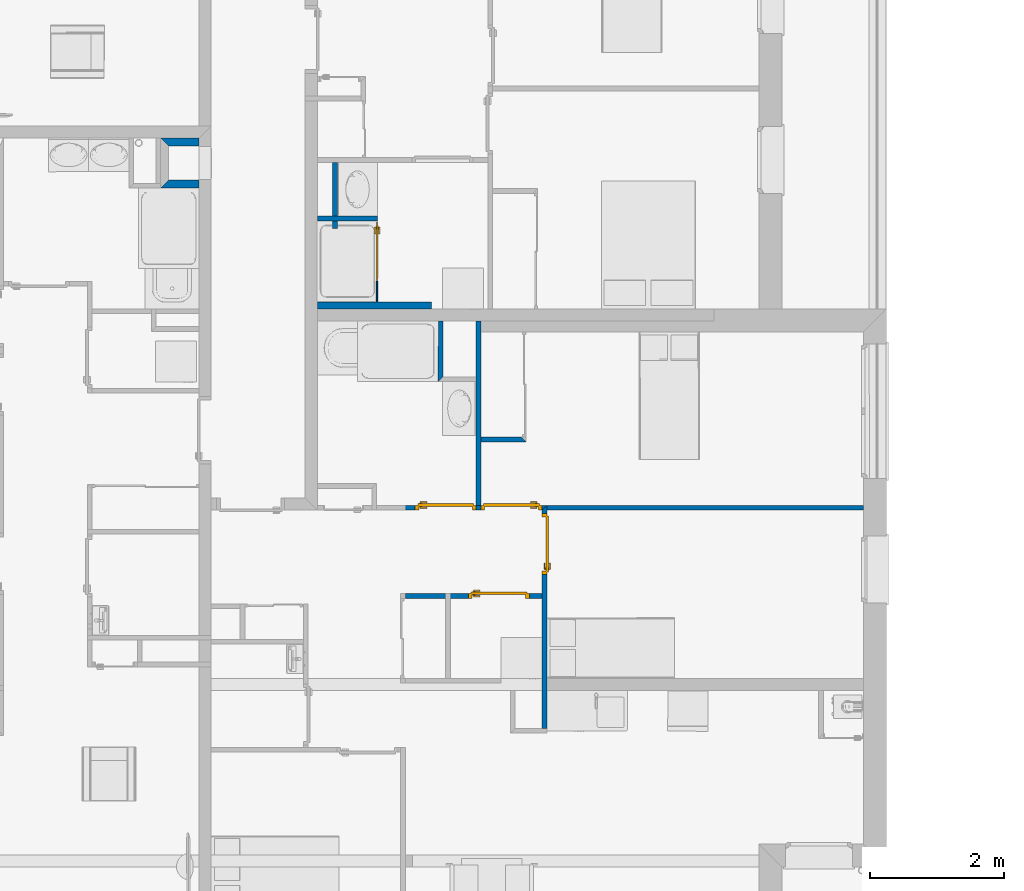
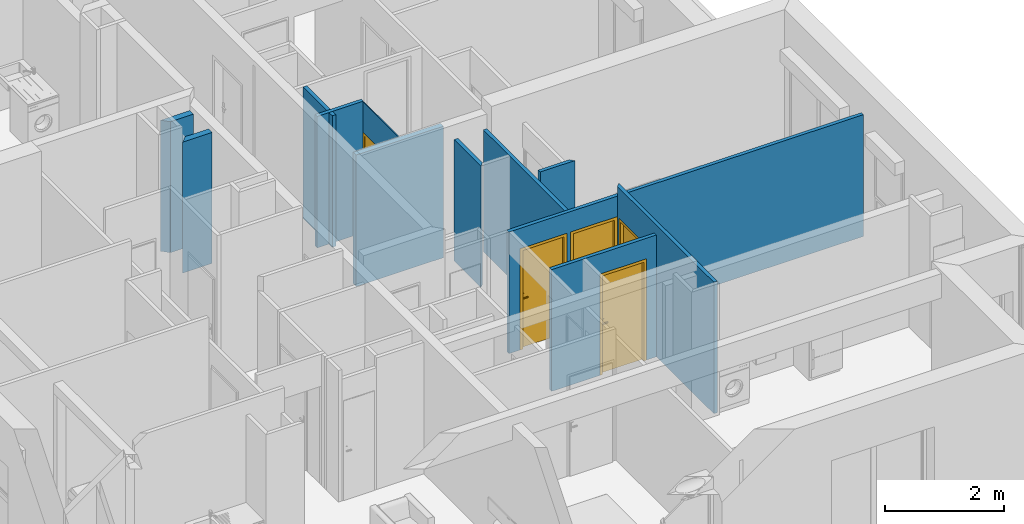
# One storey, part 14 of 165: 13 walls, 5 doors, 5 openings.
"""IFC2X3 building model written with IfcOpenShell, lengths in millimetres."""

from ifc_helpers import new_model, entity, si_unit, converted_unit, derived_unit, money_unit, direction, frame, origin_with_axes, origin_2d_with_axis, place, context, subcontext, project, spatial, polyline, rectangle, outline, extrude, faceted_brep, source, transform, mapped, material, layer, layer_set, layer_usage, type_object, element, fill, save


model = new_model("IFC2X3")

# Units and contexts
model_context = context("Model", 3, precision=0.01, world=origin_with_axes(), true_north=direction((0.0, 1.0)))
body_context = subcontext(model_context, "Body", "Model", "MODEL_VIEW")
ifc_project = project(units=[si_unit("LENGTHUNIT", "METRE", prefix="MILLI"), si_unit("AREAUNIT", "SQUARE_METRE"), si_unit("VOLUMEUNIT", "CUBIC_METRE"), converted_unit("PLANEANGLEUNIT", "DEGREE", entity("IfcPlaneAngleMeasure", 0.0174532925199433), si_unit("PLANEANGLEUNIT", "RADIAN"), dimensions=[0, 0, 0, 0, 0, 0, 0]), money_unit("USD"), converted_unit("TIMEUNIT", "Year", entity("IfcTimeMeasure", 31557600.0), si_unit("TIMEUNIT", "SECOND"), dimensions=[0, 0, 1, 0, 0, 0, 0]), si_unit("MASSUNIT", "GRAM", prefix="KILO"), si_unit("THERMODYNAMICTEMPERATUREUNIT", "DEGREE_CELSIUS"), si_unit("LUMINOUSINTENSITYUNIT", "LUMEN"), si_unit("ENERGYUNIT", "JOULE", prefix="MEGA"), derived_unit("THERMALCONDUCTANCEUNIT", [(si_unit("POWERUNIT", "WATT"), 1), (si_unit("LENGTHUNIT", "METRE"), -1), (si_unit("THERMODYNAMICTEMPERATUREUNIT", "KELVIN"), -1)]), derived_unit("SPECIFICHEATCAPACITYUNIT", [(si_unit("ENERGYUNIT", "JOULE"), 1), (si_unit("MASSUNIT", "GRAM", prefix="KILO"), -1), (si_unit("THERMODYNAMICTEMPERATUREUNIT", "KELVIN"), -1)]), derived_unit("MASSDENSITYUNIT", [(si_unit("MASSUNIT", "GRAM", prefix="KILO"), 1), (si_unit("VOLUMEUNIT", "CUBIC_METRE"), -1)])], contexts=[model_context])

# Site, building, storey
site_placement = place(None, origin_with_axes())
site = spatial("IfcSite", under=ifc_project, at=site_placement, Name="Site", CompositionType="ELEMENT")
building_placement = place(site_placement, origin_with_axes())
building = spatial("IfcBuilding", under=site, at=building_placement, Name="Bâtiment", CompositionType="ELEMENT")
storey_placement = place(building_placement, frame((0.0, 0.0, 8500.0), z_axis=(0.0, 0.0, 1.0), x_axis=(1.0, 0.0, 0.0)))
storey = spatial("IfcBuildingStorey", under=building, at=storey_placement, Name="Etage 2", CompositionType="ELEMENT", Elevation=8500.0)

# Wall, opening, door
ifc_material_1 = material(Name="Hachure solide 268963992")
ifc_layer_1 = layer(ifc_material_1, 70.0, ventilated="UNKNOWN")
ifc_layer_set_1 = layer_set([ifc_layer_1], Name="Cloison 70 0826278243")
ifc_layer_usage_1 = layer_usage(ifc_layer_set_1, "AXIS2", "NEGATIVE", 70.0)
wall_type_1 = type_object("IfcWallType", Name="Cloison 70 0826278243 70", PredefinedType="NOTDEFINED")
wall_1_placement = place(storey_placement, frame((2227132.330502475, -651044.9462380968, 0.0), z_axis=(0.0, 0.0, 1.0), x_axis=(1.0, 0.0, 0.0)))
wall_1 = element("IfcWallStandardCase", 1, at=wall_1_placement, inside=storey, type_object=wall_type_1, material=ifc_layer_usage_1, Name="Mur-149", context=body_context, shape_type="SweptSolid", body=[
    extrude(outline(polyline([(70.00000000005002, 0.0), (2104.550040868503, 0.0), (2104.550040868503, 69.99999999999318), (70.00000000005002, 69.99999999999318), (70.00000000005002, 0.0)])), origin_with_axes(), (0.0, 0.0, 1.0), 2500.0),
])
opening_1_placement = place(wall_1_placement, frame((1461.036546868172, 0.0, 0.0), z_axis=(0.0, 0.0, 1.0), x_axis=(1.0, 0.0, 0.0)))
opening_1 = element("IfcOpeningElement", 2, at=opening_1_placement, cuts=wall_1, Name="Por-283", context=body_context, shape_type="SweptSolid", body=[
    extrude(rectangle(XDim=910.0, YDim=2080.0, at=origin_2d_with_axis()), frame((0.0, -69.99999999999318, 1039.999999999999), z_axis=(0.0, 1.0, 0.0), x_axis=(1.0, 0.0, 0.0)), (0.0, 0.0, 1.0), 140.0),
])
door_style = type_object("IfcDoorStyle", Name="Porte_1v", ConstructionType="NOTDEFINED", OperationType="NOTDEFINED", ParameterTakesPrecedence=False, Sizeable=False)
shared_shape_1 = source(origin_with_axes(), body_context, "Body", "Brep", [
    faceted_brep([(455.0, 0.0, 0.0), (415.0000000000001, 0.0, 0.0), (415.0000000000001, 0.0, 2040.0), (-415.0000000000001, 0.0, 2040.0), (-415.0000000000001, 0.0, 0.0), (-455.0, 0.0, 0.0), (-455.0, 0.0, 2080.0), (455.0, 0.0, 2080.0), (455.0, -70.0, 0.0), (400.0, -70.0, 0.0), (400.0, -15.0, 0.0), (415.0000000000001, -15.0, 0.0), (415.0000000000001, -15.0, 2040.0), (-415.0000000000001, -15.0, 2040.0), (-415.0000000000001, -15.0, 0.0), (-400.0, -15.0, 0.0), (-400.0, -70.0, 0.0), (-455.0, -70.0, 0.0), (-455.0, -70.0, 2080.0), (455.0, -70.0, 2080.0), (-400.0, -70.0, 2025.0), (400.0, -70.0, 2025.0), (400.0, -15.0, 2025.0), (-400.0, -15.0, 2025.0)], [[[0, 1, 2, 3, 4, 5, 6, 7]], [[0, 8, 9, 10, 11, 1]], [[1, 11, 12, 2]], [[2, 12, 13, 3]], [[3, 13, 14, 4]], [[5, 4, 14, 15, 16, 17]], [[18, 6, 5, 17]], [[19, 7, 6, 18]], [[8, 0, 7, 19]], [[9, 8, 19, 18, 17, 16, 20, 21]], [[10, 9, 21, 22]], [[11, 10, 22, 23, 15, 14, 13, 12]], [[23, 20, 16, 15]], [[22, 21, 20, 23]]]),
    faceted_brep([(-350.0000000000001, -15.0, 900.0), (-390.0, -15.0, 900.0), (-390.0, -15.0, 1100.0), (-350.0000000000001, -15.0, 1100.0), (-350.0000000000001, -25.0, 900.0), (-390.0, -25.0, 900.0), (-390.0, -25.0, 1100.0), (-350.0000000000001, -25.0, 1100.0)], [[[0, 1, 2, 3]], [[1, 0, 4, 5]], [[2, 1, 5, 6]], [[3, 2, 6, 7]], [[0, 3, 7, 4]], [[5, 4, 7, 6]]]),
    faceted_brep([(-280.0, -25.0, 1000.0), (-380.0, -25.0, 1000.0), (-380.0, -25.0, 1020.0), (-280.0, -25.0, 1020.0), (-280.0, -45.0, 1000.0), (-380.0, -45.0, 1000.0), (-380.0, -45.0, 1020.0), (-280.0, -45.0, 1020.0)], [[[0, 1, 2, 3]], [[1, 0, 4, 5]], [[2, 1, 5, 6]], [[3, 2, 6, 7]], [[0, 3, 7, 4]], [[5, 4, 7, 6]]]),
    faceted_brep([(-350.0000000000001, 35.0, 900.0), (-390.0, 35.0, 900.0), (-390.0, 35.0, 1100.0), (-350.0000000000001, 35.0, 1100.0), (-350.0000000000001, 25.0, 900.0), (-390.0, 25.0, 900.0), (-390.0, 25.0, 1100.0), (-350.0000000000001, 25.0, 1100.0)], [[[0, 1, 2, 3]], [[1, 0, 4, 5]], [[2, 1, 5, 6]], [[3, 2, 6, 7]], [[0, 3, 7, 4]], [[5, 4, 7, 6]]]),
    faceted_brep([(-280.0, 55.00000000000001, 1000.0), (-380.0, 55.00000000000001, 1000.0), (-380.0, 55.00000000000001, 1020.0), (-280.0, 55.00000000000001, 1020.0), (-280.0, 35.0, 1000.0), (-380.0, 35.0, 1000.0), (-380.0, 35.0, 1020.0), (-280.0, 35.0, 1020.0)], [[[0, 1, 2, 3]], [[1, 0, 4, 5]], [[2, 1, 5, 6]], [[3, 2, 6, 7]], [[0, 3, 7, 4]], [[5, 4, 7, 6]]]),
    faceted_brep([(-415.0000000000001, 25.0, 0.0), (415.0000000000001, 25.0, 0.0), (415.0000000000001, -15.0, 0.0), (-415.0000000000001, -15.0, 0.0), (-415.0000000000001, 25.0, 2040.0), (415.0000000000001, 25.0, 2040.0), (415.0000000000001, -15.0, 2040.0), (-415.0000000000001, -15.0, 2040.0)], [[[0, 1, 2, 3]], [[0, 4, 5, 1]], [[1, 5, 6, 2]], [[3, 2, 6, 7]], [[4, 0, 3, 7]], [[5, 4, 7, 6]]]),
])
door_1_placement = place(opening_1_placement, frame((-415.000000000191, 0.0, 0.0), z_axis=(0.0, 0.0, 1.0), x_axis=(1.0, 0.0, 0.0)))
door_1 = element("IfcDoor", 3, at=door_1_placement, inside=storey, type_object=door_style, Name="Por-283", OverallHeight=2040.0, OverallWidth=830.0, context=body_context, shape_type="MappedRepresentation", body=[
    mapped(shared_shape_1, transform((414.9999999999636, 69.99999999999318, 0.0))),
])
fill(opening_1, door_1)

ifc_layer_usage_2 = layer_usage(ifc_layer_set_1, "AXIS2", "NEGATIVE", 70.0)
wall_2_placement = place(storey_placement, frame((2229236.880543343, -649729.592635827, 0.0), z_axis=(0.0, 0.0, 1.0), x_axis=(0.0, -1.0, 0.0)))
wall_2 = element("IfcWallStandardCase", 4, at=wall_2_placement, inside=storey, type_object=wall_type_1, material=ifc_layer_usage_2, Name="Mur-149", context=body_context, shape_type="SweptSolid", body=[
    extrude(outline(polyline([(0.0, 0.0), (3247.338944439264, 0.0), (3247.343826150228, 70.00000000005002), (-69.99999999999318, 70.00000000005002), (0.0, 0.0)])), origin_with_axes(), (0.0, 0.0, 1.0), 2700.0),
])
opening_2_placement = place(wall_2_placement, frame((504.999999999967, 0.0, 0.0), z_axis=(0.0, 0.0, 1.0), x_axis=(1.0, 0.0, 0.0)))
opening_2 = element("IfcOpeningElement", 5, at=opening_2_placement, cuts=wall_2, Name="Por-282", context=body_context, shape_type="SweptSolid", body=[
    extrude(rectangle(XDim=910.0, YDim=2080.0, at=origin_2d_with_axis()), frame((0.0, -70.00000000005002, 1039.999999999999), z_axis=(0.0, -1.0, 0.0), x_axis=(-1.0, 0.0, 0.0)), (0.0, 0.0, -1.0), 140.0),
])
shared_shape_2 = source(origin_with_axes(), body_context, "Body", "Brep", [
    faceted_brep([(-454.9999999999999, 0.0, 0.0), (-454.9999999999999, 0.0, 2080.0), (454.9999999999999, 0.0, 2080.0), (454.9999999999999, 0.0, 0.0), (414.9999999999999, 0.0, 0.0), (414.9999999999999, 0.0, 2040.0), (-414.9999999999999, 0.0, 2040.0), (-414.9999999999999, 0.0, 0.0), (-454.9999999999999, -69.99999999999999, 0.0), (-454.9999999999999, -69.99999999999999, 2080.0), (454.9999999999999, -69.99999999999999, 2080.0), (454.9999999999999, -69.99999999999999, 0.0), (399.9999999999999, -69.99999999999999, 0.0), (399.9999999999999, -15.0, 0.0), (414.9999999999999, -15.0, 0.0), (414.9999999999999, -15.0, 2040.0), (-414.9999999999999, -14.99999999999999, 2040.0), (-414.9999999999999, -14.99999999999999, 0.0), (-399.9999999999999, -14.99999999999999, 0.0), (-399.9999999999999, -69.99999999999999, 0.0), (-399.9999999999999, -69.99999999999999, 2025.0), (399.9999999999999, -69.99999999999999, 2025.0), (399.9999999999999, -15.0, 2025.0), (-399.9999999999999, -14.99999999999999, 2025.0)], [[[0, 1, 2, 3, 4, 5, 6, 7]], [[8, 9, 1, 0]], [[9, 10, 2, 1]], [[10, 11, 3, 2]], [[3, 11, 12, 13, 14, 4]], [[5, 4, 14, 15]], [[6, 5, 15, 16]], [[7, 6, 16, 17]], [[0, 7, 17, 18, 19, 8]], [[19, 20, 21, 12, 11, 10, 9, 8]], [[22, 13, 12, 21]], [[17, 16, 15, 14, 13, 22, 23, 18]], [[18, 23, 20, 19]], [[23, 22, 21, 20]]]),
    faceted_brep([(350.0, -15.0, 900.0), (350.0, -15.0, 1100.0), (389.9999999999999, -15.0, 1100.0), (389.9999999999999, -15.0, 900.0), (350.0, -25.0, 900.0), (350.0, -25.0, 1100.0), (389.9999999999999, -25.0, 1100.0), (389.9999999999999, -25.0, 900.0)], [[[0, 1, 2, 3]], [[0, 4, 5, 1]], [[1, 5, 6, 2]], [[2, 6, 7, 3]], [[3, 7, 4, 0]], [[7, 6, 5, 4]]]),
    faceted_brep([(279.9999999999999, -25.0, 1000.0), (279.9999999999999, -25.0, 1020.0), (379.9999999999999, -25.0, 1020.0), (379.9999999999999, -25.0, 1000.0), (279.9999999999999, -45.0, 1000.0), (279.9999999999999, -45.0, 1020.0), (379.9999999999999, -45.0, 1020.0), (379.9999999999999, -45.0, 1000.0)], [[[0, 1, 2, 3]], [[0, 4, 5, 1]], [[1, 5, 6, 2]], [[2, 6, 7, 3]], [[3, 7, 4, 0]], [[7, 6, 5, 4]]]),
    faceted_brep([(350.0, 34.99999999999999, 900.0), (350.0, 34.99999999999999, 1100.0), (389.9999999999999, 34.99999999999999, 1100.0), (389.9999999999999, 34.99999999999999, 900.0), (350.0, 24.99999999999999, 900.0), (350.0, 24.99999999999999, 1100.0), (389.9999999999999, 24.99999999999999, 1100.0), (389.9999999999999, 24.99999999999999, 900.0)], [[[0, 1, 2, 3]], [[0, 4, 5, 1]], [[1, 5, 6, 2]], [[2, 6, 7, 3]], [[3, 7, 4, 0]], [[7, 6, 5, 4]]]),
    faceted_brep([(279.9999999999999, 54.99999999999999, 1000.0), (279.9999999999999, 54.99999999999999, 1020.0), (379.9999999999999, 54.99999999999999, 1020.0), (379.9999999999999, 54.99999999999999, 1000.0), (279.9999999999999, 34.99999999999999, 1000.0), (279.9999999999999, 34.99999999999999, 1020.0), (379.9999999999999, 34.99999999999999, 1020.0), (379.9999999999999, 34.99999999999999, 1000.0)], [[[0, 1, 2, 3]], [[0, 4, 5, 1]], [[1, 5, 6, 2]], [[2, 6, 7, 3]], [[3, 7, 4, 0]], [[7, 6, 5, 4]]]),
    faceted_brep([(414.9999999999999, 24.99999999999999, 0.0), (414.9999999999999, -15.0, 0.0), (-414.9999999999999, -14.99999999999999, 0.0), (-414.9999999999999, 25.0, 0.0), (414.9999999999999, 24.99999999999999, 2040.0), (414.9999999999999, -15.0, 2040.0), (-414.9999999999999, -14.99999999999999, 2040.0), (-414.9999999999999, 25.0, 2040.0)], [[[0, 1, 2, 3]], [[4, 5, 1, 0]], [[1, 5, 6, 2]], [[3, 2, 6, 7]], [[0, 3, 7, 4]], [[7, 6, 5, 4]]]),
])
door_2_placement = place(opening_2_placement, frame((-415.0000000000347, 0.0, 0.0), z_axis=(0.0, 0.0, 1.0), x_axis=(1.0, 0.0, 0.0)))
door_2 = element("IfcDoor", 6, at=door_2_placement, inside=storey, type_object=door_style, Name="Por-282", OverallHeight=2040.0, OverallWidth=830.0, context=body_context, shape_type="MappedRepresentation", body=[
    mapped(shared_shape_2, transform((415.0000000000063, 70.00000000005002, 0.0))),
])
fill(opening_2, door_2)

# Walls
ifc_layer_usage_3 = layer_usage(ifc_layer_set_1, "AXIS2", "POSITIVE", -70.0)
wall_3_placement = place(storey_placement, frame((2226190.814608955, -644489.3213492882, 0.0), z_axis=(0.0, 0.0, 1.0), x_axis=(0.0, -1.0, 0.0)))
element("IfcWallStandardCase", 7, at=wall_3_placement, inside=storey, type_object=wall_type_1, material=ifc_layer_usage_3, Name="Mur-149", context=body_context, shape_type="SweptSolid", body=[
    extrude(outline(polyline([(69.99999999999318, -70.00000000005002), (1049.625339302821, -70.00000000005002), (1049.625339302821, 0.0), (69.99999999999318, 0.0), (69.99999999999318, -70.00000000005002)])), origin_with_axes(), (0.0, 0.0, 1.0), 2700.0),
])
ifc_layer_usage_4 = layer_usage(ifc_layer_set_1, "AXIS2", "NEGATIVE", 70.0)
wall_4_placement = place(storey_placement, frame((2229236.880543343, -649729.592635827, 0.0), z_axis=(0.0, 0.0, 1.0), x_axis=(1.0, 0.0, 0.0)))
element("IfcWallStandardCase", 8, at=wall_4_placement, inside=storey, type_object=wall_type_1, material=ifc_layer_usage_4, Name="Mur-149", context=body_context, shape_type="SweptSolid", body=[
    extrude(outline(polyline([(70.00000000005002, 0.0), (4779.790753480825, 0.0), (4779.790753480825, 69.99999999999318), (70.00000000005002, 69.99999999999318), (70.00000000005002, 0.0)])), origin_with_axes(), (0.0, 0.0, 1.0), 2500.0),
])

# Wall, openings, doors
ifc_layer_usage_5 = layer_usage(ifc_layer_set_1, "AXIS2", "NEGATIVE", 70.0)
wall_5_placement = place(storey_placement, frame((2227132.330502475, -649729.592635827, 0.0), z_axis=(0.0, 0.0, 1.0), x_axis=(1.0, 0.0, 0.0)))
wall_5 = element("IfcWallStandardCase", 9, at=wall_5_placement, inside=storey, type_object=wall_type_1, material=ifc_layer_usage_5, Name="Mur-149", context=body_context, shape_type="SweptSolid", body=[
    extrude(outline(polyline([(0.0, 0.0), (2104.550040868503, 0.0), (2174.550040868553, 69.99999999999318), (0.0, 69.99999999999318), (0.0, 0.0)])), origin_with_axes(), (0.0, 0.0, 1.0), 2500.0),
])
opening_3_placement = place(wall_5_placement, frame((1649.550040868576, 0.0, 0.0), z_axis=(0.0, 0.0, 1.0), x_axis=(1.0, 0.0, 0.0)))
opening_3 = element("IfcOpeningElement", 10, at=opening_3_placement, cuts=wall_5, Name="Por-281", context=body_context, shape_type="SweptSolid", body=[
    extrude(rectangle(XDim=910.0, YDim=2080.0, at=origin_2d_with_axis()), frame((0.0, -69.99999999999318, 1039.999999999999), z_axis=(0.0, -1.0, 0.0), x_axis=(-1.0, 0.0, 0.0)), (0.0, 0.0, -1.0), 140.0),
])
opening_4_placement = place(wall_5_placement, frame((669.5500408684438, 0.0, 0.0), z_axis=(0.0, 0.0, 1.0), x_axis=(1.0, 0.0, 0.0)))
opening_4 = element("IfcOpeningElement", 11, at=opening_4_placement, cuts=wall_5, Name="Por-282", context=body_context, shape_type="SweptSolid", body=[
    extrude(rectangle(XDim=910.0, YDim=2080.0, at=origin_2d_with_axis()), frame((0.0, -69.99999999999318, 1039.999999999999), z_axis=(0.0, 1.0, 0.0), x_axis=(1.0, 0.0, 0.0)), (0.0, 0.0, 1.0), 140.0),
])
door_3_placement = place(opening_4_placement, frame((-414.9999999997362, 0.0, 0.0), z_axis=(0.0, 0.0, 1.0), x_axis=(1.0, 0.0, 0.0)))
door_3 = element("IfcDoor", 12, at=door_3_placement, inside=storey, type_object=door_style, Name="Por-282", OverallHeight=2040.0, OverallWidth=830.0, context=body_context, shape_type="MappedRepresentation", body=[
    mapped(shared_shape_1, transform((414.9999999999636, 69.99999999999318, 0.0))),
])
fill(opening_4, door_3)
door_4_placement = place(opening_3_placement, frame((-415.0000000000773, 0.0, 0.0), z_axis=(0.0, 0.0, 1.0), x_axis=(1.0, 0.0, 0.0)))
door_4 = element("IfcDoor", 13, at=door_4_placement, inside=storey, type_object=door_style, Name="Por-281", OverallHeight=2040.0, OverallWidth=830.0, context=body_context, shape_type="MappedRepresentation", body=[
    mapped(shared_shape_2, transform((414.9999999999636, 69.99999999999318, 0.0))),
])
fill(opening_3, door_4)

# Walls
ifc_layer_usage_6 = layer_usage(ifc_layer_set_1, "AXIS2", "POSITIVE", -70.0)
wall_6_placement = place(storey_placement, frame((2228326.880543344, -646738.4413036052, 0.0), z_axis=(0.0, 0.0, 1.0), x_axis=(0.0, -1.0, 0.0)))
element("IfcWallStandardCase", 14, at=wall_6_placement, inside=storey, type_object=wall_type_1, material=ifc_layer_usage_6, Name="Mur-149", context=body_context, shape_type="SweptSolid", body=[
    extrude(outline(polyline([(180.0000008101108, -70.00000000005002), (2921.151332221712, -70.00000000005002), (2921.151332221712, 0.0), (180.0000008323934, 0.0), (180.0000008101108, -70.00000000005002)])), origin_with_axes(), (0.0, 0.0, 1.0), 2500.0),
])
ifc_layer_usage_7 = layer_usage(ifc_layer_set_1, "AXIS2", "POSITIVE", -70.0)
wall_7_placement = place(storey_placement, frame((2226790.814608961, -645429.3213492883, 0.0), z_axis=(0.0, 0.0, 1.0), x_axis=(-1.0, 0.0, 0.0)))
element("IfcWallStandardCase", 15, at=wall_7_placement, inside=storey, type_object=wall_type_1, material=ifc_layer_usage_7, Name="Mur-149", context=body_context, shape_type="SweptSolid", body=[
    extrude(outline(polyline([(0.0, -69.99999999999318), (898.49625225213, -69.99999999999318), (898.49625225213, 0.0), (0.0, 0.0), (0.0, -69.99999999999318)])), origin_with_axes(), (0.0, 0.0, 1.0), 2700.0),
])
ifc_layer_usage_8 = layer_usage(ifc_layer_set_1, "AXIS2", "POSITIVE", -70.0)
wall_8_placement = place(storey_placement, frame((2228326.880543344, -648646.4751007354, 0.0), z_axis=(0.0, 0.0, 1.0), x_axis=(0.9999996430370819, -0.0008449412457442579, 0.0)))
element("IfcWallStandardCase", 16, at=wall_8_placement, inside=storey, type_object=wall_type_1, material=ifc_layer_usage_8, Name="Mur-149", context=body_context, shape_type="SweptSolid", body=[
    extrude(outline(polyline([(0.05914590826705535, -69.99999999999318), (670.0593850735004, -70.00000000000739), (600.0002141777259, 0.0), (0.0, 0.0), (0.05914590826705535, -69.99999999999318)])), origin_with_axes(), (0.0, 0.0, 1.0), 2700.0),
])
ifc_layer_usage_9 = layer_usage(ifc_layer_set_1, "AXIS2", "NEGATIVE", 70.0)
wall_9_placement = place(storey_placement, frame((2227693.08338652, -646738.4413042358, 0.0), z_axis=(0.0, 0.0, 1.0), x_axis=(-0.002303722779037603, -0.999997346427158, 0.0)))
element("IfcWallStandardCase", 17, at=wall_9_placement, inside=storey, type_object=wall_type_1, material=ifc_layer_usage_9, Name="Mur-149", context=body_context, shape_type="SweptSolid", body=[
    extrude(outline(polyline([(180.0004776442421, 0.0), (1080.875611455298, 1.13686837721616e-10), (1010.714164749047, 70.00000000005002), (179.839216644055, 70.00000000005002), (180.0004776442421, 0.0)])), origin_with_axes(), (0.0, 0.0, 1.0), 2500.000000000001),
])
ifc_material_2 = material(Name="AS_EMPTY 272048125")
ifc_layer_2 = layer(ifc_material_2, 20.0, ventilated="UNKNOWN")
ifc_material_3 = material(Name="Isolant styromousse 275581351")
ifc_layer_3 = layer(ifc_material_3, 80.0, ventilated="UNKNOWN")
ifc_layer_4 = layer(ifc_material_2, 20.0, ventilated="UNKNOWN")
ifc_layer_set_2 = layer_set([ifc_layer_2, ifc_layer_3, ifc_layer_4], Name="SAA 120")
ifc_layer_usage_10 = layer_usage(ifc_layer_set_2, "AXIS2", "POSITIVE", 0.0)
wall_type_2 = type_object("IfcWallType", Name="SAA 120 120", PredefinedType="NOTDEFINED")
wall_10_placement = place(storey_placement, frame((2223561.126354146, -644938.8542053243, 0.0), z_axis=(0.0, 0.0, 1.0), x_axis=(1.0, 0.0, 0.0)))
element("IfcWallStandardCase", 18, at=wall_10_placement, inside=storey, type_object=wall_type_2, material=ifc_layer_usage_10, Name="Mur-156", context=body_context, shape_type="SweptSolid", body=[
    extrude(outline(polyline([(1.13686837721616e-10, 0.0), (571.1920025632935, 0.0), (571.1920025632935, 120.0000000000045), (120.0734411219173, 120.0000000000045), (1.13686837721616e-10, 0.0)])), origin_with_axes(), (0.0, 0.0, 1.0), 2690.0),
])
ifc_layer_usage_11 = layer_usage(ifc_layer_set_2, "AXIS2", "NEGATIVE", 0.0)
wall_11_placement = place(storey_placement, frame((2223561.580618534, -644196.3764097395, 0.0), z_axis=(0.0, 0.0, 1.0), x_axis=(1.0, 0.0, 0.0)))
element("IfcWallStandardCase", 19, at=wall_11_placement, inside=storey, type_object=wall_type_2, material=ifc_layer_usage_11, Name="Mur-156", context=body_context, shape_type="SweptSolid", body=[
    extrude(outline(polyline([(119.9266037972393, -120.0000000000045), (570.7377381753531, -120.0000000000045), (570.7377381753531, 0.0), (-1.13686837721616e-10, 0.0), (119.9266037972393, -120.0000000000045)])), origin_with_axes(), (0.0, 0.0, 1.0), 2690.0),
])

# Wall, opening, door
ifc_material_4 = material(Name="Empty Fill 292498448")
ifc_layer_5 = layer(ifc_material_4, 20.0, ventilated="UNKNOWN")
ifc_layer_set_3 = layer_set([ifc_layer_5], Name="mur 2cm")
ifc_layer_usage_12 = layer_usage(ifc_layer_set_3, "AXIS2", "POSITIVE", -20.0)
wall_type_3 = type_object("IfcWallType", Name="mur 2cm 20", PredefinedType="NOTDEFINED")
wall_12_placement = place(storey_placement, frame((2226790.814599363, -645448.2001376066, 0.0), z_axis=(0.0, 0.0, 1.0), x_axis=(-5.073241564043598e-07, -0.9999999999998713, 0.0)))
wall_12 = element("IfcWallStandardCase", 20, at=wall_12_placement, inside=storey, type_object=wall_type_3, material=ifc_layer_usage_12, Name="Mur-148", context=body_context, shape_type="SweptSolid", body=[
    extrude(outline(polyline([(0.0, -19.99999999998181), (1180.110441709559, -19.99999999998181), (1180.110441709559, 0.0), (0.0, 0.0), (0.0, -19.99999999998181)])), origin_with_axes(), (0.0, 0.0, 1.0), 2700.0),
])
opening_5_placement = place(wall_12_placement, frame((440.0000000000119, 0.0, 0.0), z_axis=(0.0, 0.0, 1.0), x_axis=(1.0, 0.0, 0.0)))
opening_5 = element("IfcOpeningElement", 21, at=opening_5_placement, cuts=wall_12, Name="Por-288", context=body_context, shape_type="SweptSolid", body=[
    extrude(rectangle(XDim=880.0000119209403, YDim=2080.0, at=origin_2d_with_axis()), frame((5.960473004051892e-06, -19.99999999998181, 1039.999999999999), z_axis=(0.0, 1.0, 0.0), x_axis=(1.0, 0.0, 0.0)), (0.0, 0.0, 1.0), 40.0),
])
shared_shape_3 = source(origin_with_axes(), body_context, "Body", "Brep", [
    faceted_brep([(440.0, 0.0, 0.0), (400.0, 0.0, 0.0), (400.0, 0.0, 2040.0), (-400.0, 0.0, 2040.0), (-400.0, 0.0, 0.0), (-440.0, 0.0, 0.0), (-440.0, 0.0, 2080.0), (440.0, 0.0, 2080.0), (440.0, -20.0, 0.0), (385.0, -20.0, 0.0), (385.0, -15.0, 0.0), (400.0, -15.0, 0.0), (400.0, -15.0, 2040.0), (-400.0, -15.0, 2040.0), (-400.0, -15.0, 0.0), (-385.0, -15.0, 0.0), (-385.0, -20.0, 0.0), (-440.0, -20.0, 0.0), (-440.0, -20.0, 2080.0), (440.0, -20.0, 2080.0), (-385.0, -20.0, 2025.0), (385.0, -20.0, 2025.0), (385.0, -15.0, 2025.0), (-385.0, -15.0, 2025.0)], [[[0, 1, 2, 3, 4, 5, 6, 7]], [[0, 8, 9, 10, 11, 1]], [[1, 11, 12, 2]], [[2, 12, 13, 3]], [[3, 13, 14, 4]], [[5, 4, 14, 15, 16, 17]], [[18, 6, 5, 17]], [[19, 7, 6, 18]], [[8, 0, 7, 19]], [[9, 8, 19, 18, 17, 16, 20, 21]], [[10, 9, 21, 22]], [[11, 10, 22, 23, 15, 14, 13, 12]], [[23, 20, 16, 15]], [[22, 21, 20, 23]]]),
    faceted_brep([(-335.0, -15.0, 900.0), (-375.0, -15.0, 900.0), (-375.0, -15.0, 1100.0), (-335.0, -15.0, 1100.0), (-335.0, -25.0, 900.0), (-375.0, -25.0, 900.0), (-375.0, -25.0, 1100.0), (-335.0, -25.0, 1100.0)], [[[0, 1, 2, 3]], [[1, 0, 4, 5]], [[2, 1, 5, 6]], [[3, 2, 6, 7]], [[0, 3, 7, 4]], [[5, 4, 7, 6]]]),
    faceted_brep([(-265.0, -25.0, 1000.0), (-365.0, -25.0, 1000.0), (-365.0, -25.0, 1020.0), (-265.0, -25.0, 1020.0), (-265.0, -45.0, 1000.0), (-365.0, -45.0, 1000.0), (-365.0, -45.0, 1020.0), (-265.0, -45.0, 1020.0)], [[[0, 1, 2, 3]], [[1, 0, 4, 5]], [[2, 1, 5, 6]], [[3, 2, 6, 7]], [[0, 3, 7, 4]], [[5, 4, 7, 6]]]),
    faceted_brep([(-335.0, 15.0, 900.0), (-375.0, 15.0, 900.0), (-375.0, 15.0, 1100.0), (-335.0, 15.0, 1100.0), (-335.0, 5.000000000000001, 900.0), (-375.0, 5.000000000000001, 900.0), (-375.0, 5.000000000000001, 1100.0), (-335.0, 5.000000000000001, 1100.0)], [[[0, 1, 2, 3]], [[1, 0, 4, 5]], [[2, 1, 5, 6]], [[3, 2, 6, 7]], [[0, 3, 7, 4]], [[5, 4, 7, 6]]]),
    faceted_brep([(-265.0, 35.0, 1000.0), (-365.0, 35.0, 1000.0), (-365.0, 35.0, 1020.0), (-265.0, 35.0, 1020.0), (-265.0, 15.0, 1000.0), (-365.0, 15.0, 1000.0), (-365.0, 15.0, 1020.0), (-265.0, 15.0, 1020.0)], [[[0, 1, 2, 3]], [[1, 0, 4, 5]], [[2, 1, 5, 6]], [[3, 2, 6, 7]], [[0, 3, 7, 4]], [[5, 4, 7, 6]]]),
    faceted_brep([(-400.0, 5.000000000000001, 0.0), (400.0, 5.000000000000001, 0.0), (400.0, -15.0, 0.0), (-400.0, -15.0, 0.0), (-400.0, 5.000000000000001, 2040.0), (400.0, 5.000000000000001, 2040.0), (400.0, -15.0, 2040.0), (-400.0, -15.0, 2040.0)], [[[0, 1, 2, 3]], [[0, 4, 5, 1]], [[1, 5, 6, 2]], [[3, 2, 6, 7]], [[4, 0, 3, 7]], [[5, 4, 7, 6]]]),
])
door_5_placement = place(opening_5_placement, frame((-400.0000000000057, 1.13686837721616e-10, 0.0), z_axis=(0.0, 0.0, 1.0), x_axis=(1.0, 0.0, 0.0)))
door_5 = element("IfcDoor", 22, at=door_5_placement, inside=storey, type_object=door_style, Name="Por-288", OverallHeight=2040.0, OverallWidth=800.0, context=body_context, shape_type="MappedRepresentation", body=[
    mapped(shared_shape_3, transform((400.0000000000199, 0.0, 0.0))),
])
fill(opening_5, door_5)

# Wall
ifc_layer_6 = layer(ifc_material_1, 100.0, ventilated="UNKNOWN")
ifc_layer_set_4 = layer_set([ifc_layer_6], Name="Cloison 100")
ifc_layer_usage_13 = layer_usage(ifc_layer_set_4, "AXIS2", "POSITIVE", -100.0)
wall_type_4 = type_object("IfcWallType", Name="Cloison 100 100", PredefinedType="NOTDEFINED")
wall_13_placement = place(storey_placement, frame((2227590.814467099, -646738.9464995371, 0.0), z_axis=(0.0, 0.0, 1.0), x_axis=(-1.0, 0.0, 0.0)))
element("IfcWallStandardCase", 23, at=wall_13_placement, inside=storey, type_object=wall_type_4, material=ifc_layer_usage_13, Name="Mur-149", context=body_context, shape_type="SweptSolid", body=[
    extrude(outline(polyline([(0.0, -99.99999999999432), (1698.49611039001, -99.99999999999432), (1698.49611039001, 0.0), (0.0, 0.0), (0.0, -99.99999999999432)])), origin_with_axes(), (0.0, 0.0, 1.0), 2700.0),
])

save(model, "model.ifc")
